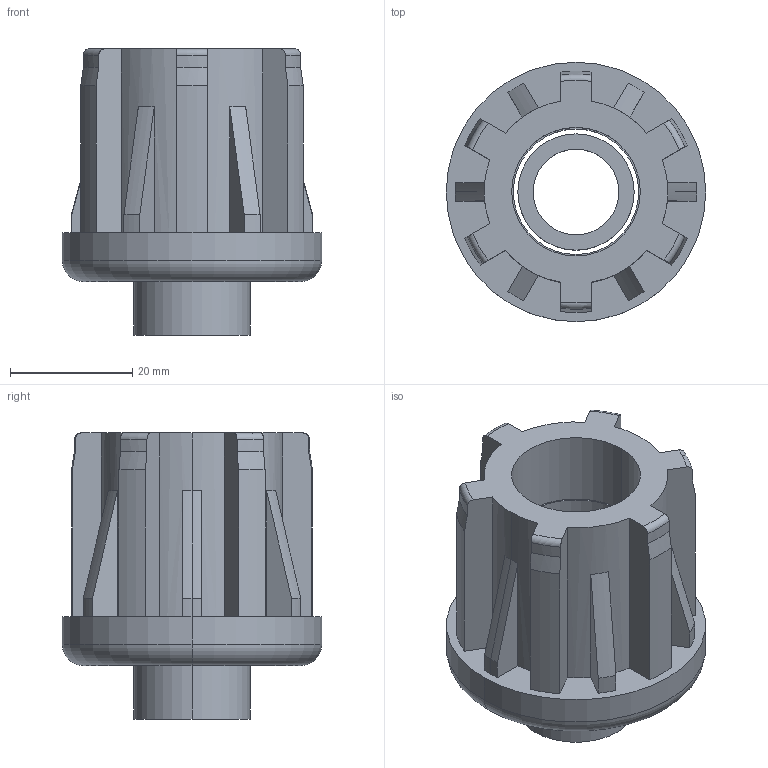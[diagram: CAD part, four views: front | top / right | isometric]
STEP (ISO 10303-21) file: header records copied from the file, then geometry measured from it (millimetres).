
FILE_DESCRIPTION (( 'STEP AP214' ), '1' );
FILE_NAME ('42006448214.STEP', '2020-02-25T17:13:17', ( '' ), ( '' ), 'SwSTEP 2.0', 'SolidWorks 2018', '' );
FILE_SCHEMA (( 'AUTOMOTIVE_DESIGN' ));
Length unit declared in the file: millimetre
Products named in the file (4): Component1.stp; 64_7220.stp; 42006448214.stp; 42006448214
Assembly tree (3 placements, depth 3):
  42006448214
    42006448214.stp
      64_7220.stp
      Component1.stp
Bounding box: 42.4 x 42.4 x 46.75 mm (x, y, z)
Volume: 23967.2 mm3; surface area: 12559.4 mm2
Topology: 2 solids, 2 shells, 97 faces, 260 edges, 170 vertices
Faces by surface type: cylinder 40, plane 31, cone 18, torus 8
Entity records: 3312 total; most frequent: CARTESIAN_POINT 732, DIRECTION 526, ORIENTED_EDGE 520, EDGE_CURVE 260, AXIS2_PLACEMENT_3D 204, VERTEX_POINT 170, LINE 118, VECTOR 118
